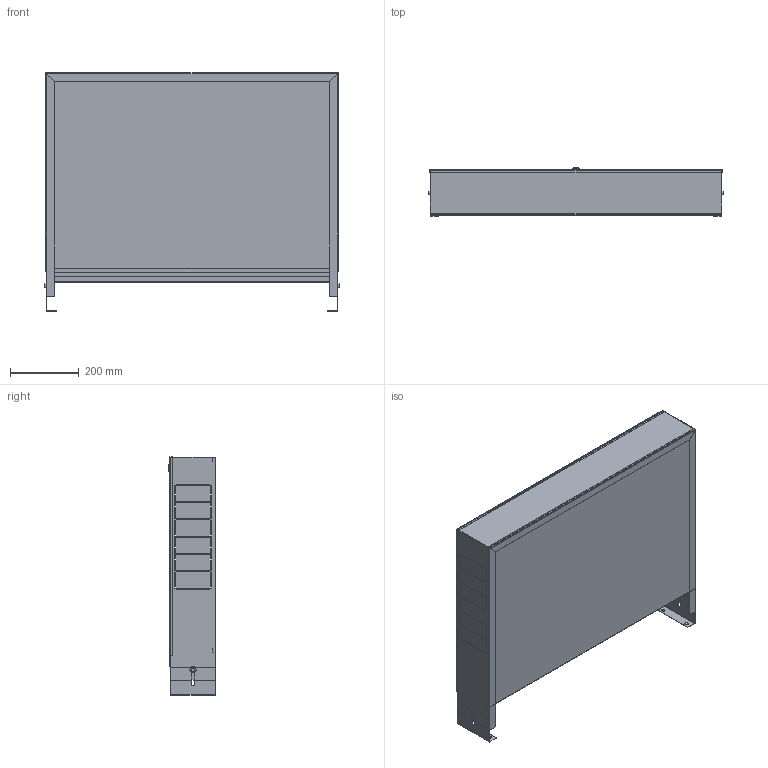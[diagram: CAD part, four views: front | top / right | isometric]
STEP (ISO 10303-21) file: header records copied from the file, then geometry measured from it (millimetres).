
FILE_DESCRIPTION(('TFLEX Exchange Step'),'2;1');
FILE_NAME('Manifold cabinet VTc.541.D.04 Valtec.stp', '2023-10-11T14:14:18+03:00',('denis'),('Unknown organisation'),'TFLEX Exchange 2023.0','T-FLEX CAD','Unknown authorisation');
FILE_SCHEMA( ('AUTOMOTIVE_DESIGN { 1 0 10303 214 1 1 1 1 }') );
Length unit declared in the file: millimetre
Products named in the file (1): Nodes
Bounding box: 859 x 139.9 x 695 mm (x, y, z)
Volume: 1189724.3 mm3; surface area: 2887953.2 mm2
Topology: 9 solids, 10 shells, 504 faces, 1335 edges, 859 vertices
Faces by surface type: plane 372, cylinder 87, cone 31, bspline 12, torus 2
Full cylindrical faces by diameter (mm): 6 x4, 6.4 x2, 7 x2, 10 x5, 12 x1, 16 x1, 18 x2, 20 x2
Entity records: 18079 total; most frequent: CARTESIAN_POINT 5474, ORIENTED_EDGE 2670, DIRECTION 2391, EDGE_CURVE 1335, VECTOR 1009, LINE 1009, VERTEX_POINT 859, AXIS2_PLACEMENT_3D 691
